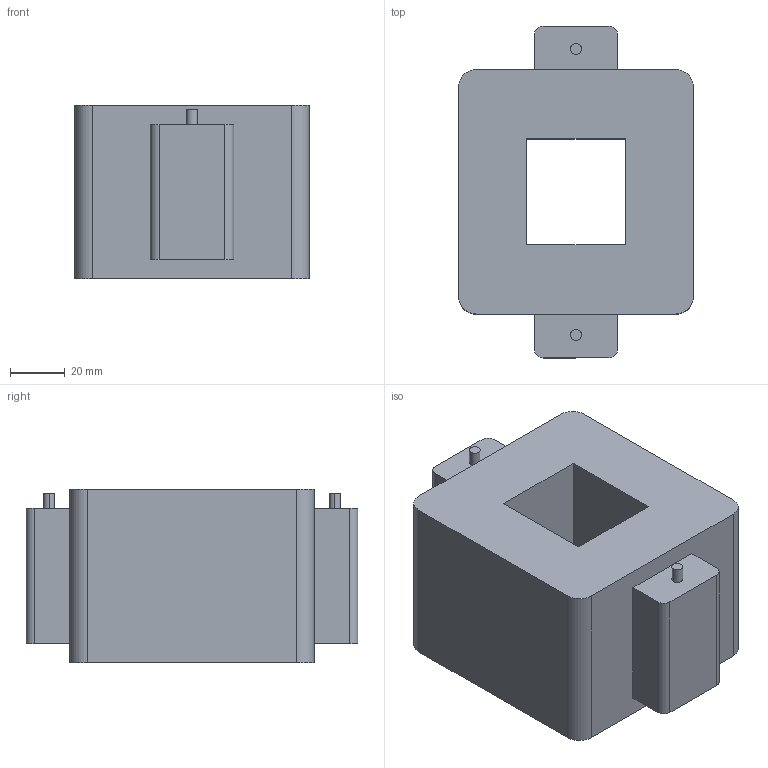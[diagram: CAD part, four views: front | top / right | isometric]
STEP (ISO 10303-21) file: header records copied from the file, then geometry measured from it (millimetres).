
FILE_DESCRIPTION (( 'STEP AP203' ), '1' );
FILE_NAME ('Model 604.STEP', '2018-06-21T12:29:09', ( '' ), ( '' ), 'SwSTEP 2.0', 'SolidWorks 2015', '' );
FILE_SCHEMA (( 'CONFIG_CONTROL_DESIGN' ));
Length unit declared in the file: inch
Products named in the file (1): Model 604
Bounding box: 85.85 x 121.41 x 63.5 mm (x, y, z)
Volume: 444244.6 mm3; surface area: 48537.7 mm2
Topology: 1 solids, 1 shells, 34 faces, 84 edges, 56 vertices
Faces by surface type: plane 22, cylinder 12
Entity records: 1095 total; most frequent: DIRECTION 178, CARTESIAN_POINT 175, ORIENTED_EDGE 168, EDGE_CURVE 84, VECTOR 60, LINE 60, AXIS2_PLACEMENT_3D 59, VERTEX_POINT 56
